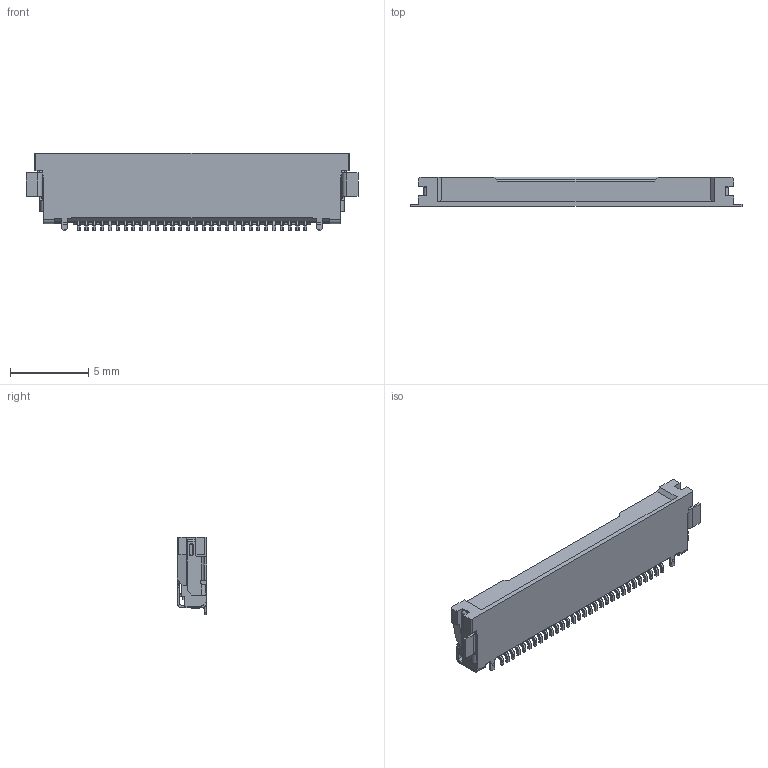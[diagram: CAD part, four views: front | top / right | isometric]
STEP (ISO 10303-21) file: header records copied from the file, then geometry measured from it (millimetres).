
FILE_DESCRIPTION (( 'STEP AP203' ), '1' );
FILE_NAME ('20893-030ExxxC EVAFLEX 5-VS TYPE R STEP R0 ALL.STEP', '2024-08-09T06:03:16', ( '' ), ( '' ), 'SwSTEP 2.0', 'SolidWorks 2023', '' );
FILE_SCHEMA (( 'CONFIG_CONTROL_DESIGN' ));
Length unit declared in the file: millimetre
Products named in the file (1): 20893-030ExxxC EVAFLEX 5-VS TYPE R STEP R0 ALL
Bounding box: 21.25 x 1.9 x 4.95 mm (x, y, z)
Volume: 142.3 mm3; surface area: 395.3 mm2
Topology: 1 solids, 3 shells, 1579 faces, 4428 edges, 2844 vertices
Faces by surface type: plane 1172, cylinder 335, cone 72
Entity records: 50191 total; most frequent: CARTESIAN_POINT 8930, ORIENTED_EDGE 8856, DIRECTION 8310, EDGE_CURVE 4428, LINE 3666, VECTOR 3666, VERTEX_POINT 2844, AXIS2_PLACEMENT_3D 2322
